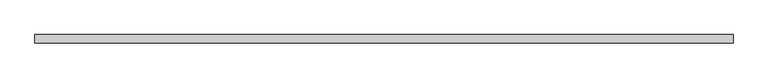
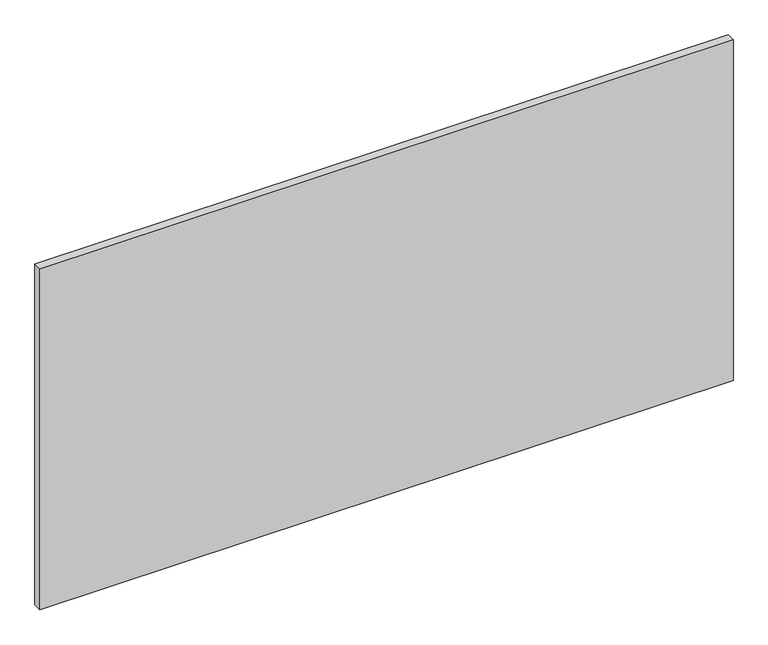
"""IFC4 building model written with IfcOpenShell, lengths in millimetres: plate geometry, 系统嵌板 : 玻璃."""

from ifc_helpers import new_model, si_unit, origin, origin_with_axes, place, context, project, spatial, polyline, outline, extrude, source, transform, mapped, element, save


def plate_fc9b985f(model_context):
    return source(origin(), model_context, "Body", "SweptSolid", [
        extrude(outline(polyline([(1020.0, -12.5), (-1020.0, -12.5), (-1020.0, 12.5), (1020.0, 12.5), (1020.0, -12.5)])), origin_with_axes(), (0.0, 0.0, 1.0), 1060.0),
    ])


if __name__ == "__main__":
    model = new_model("IFC4")
    model_context = context("Model", 3, world=origin())
    ifc_project = project(units=[si_unit("LENGTHUNIT", "METRE", prefix="MILLI")], contexts=[model_context])
    site = spatial("IfcSite", under=ifc_project)
    building = spatial("IfcBuilding", under=site)
    placement = place(None, origin())
    plate_shape = plate_fc9b985f(model_context)
    element("IfcPlate", 1, ObjectType="系统嵌板 : 玻璃", at=placement, inside=building, context=model_context, shape_type="MappedRepresentation", body=[
        mapped(plate_shape, transform((0.0, 0.0, 0.0), x_axis=(1.0, 0.0, 0.0), y_axis=(0.0, 1.0, 0.0), z_axis=(0.0, 0.0, 1.0))),
    ])
    save(model, "model.ifc")
